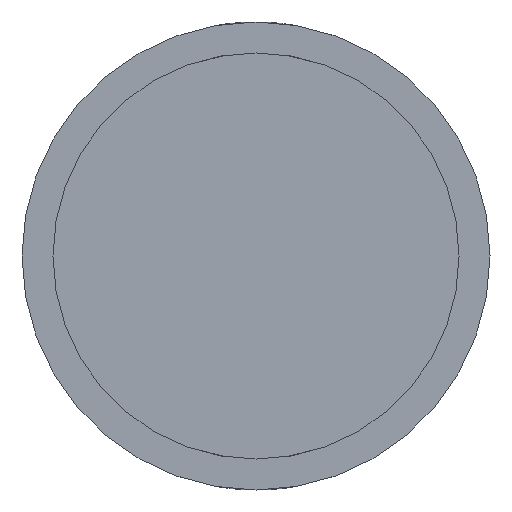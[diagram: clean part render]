
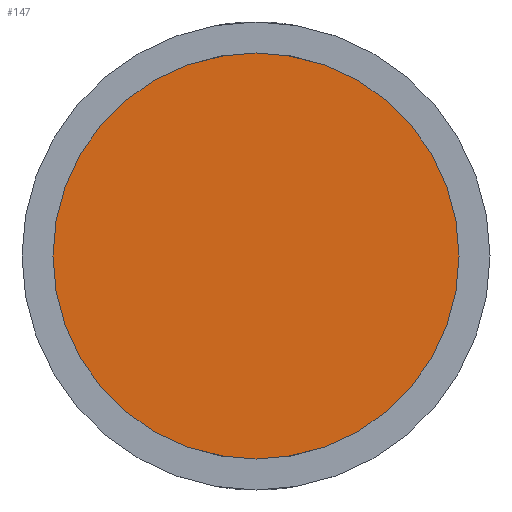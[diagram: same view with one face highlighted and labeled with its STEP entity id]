
A CAD part, front view. The second image highlights one B-rep face of the part: STEP entity #147.
In plain terms, the highlighted planar face has unit normal (0, -1, 0).
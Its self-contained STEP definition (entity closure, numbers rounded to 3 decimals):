
#12 = CARTESIAN_POINT ( 'NONE',  ( 0., 23., 0. ) ) ;
#107 = EDGE_LOOP ( 'NONE', ( #241, #619 ) ) ;
#120 = CARTESIAN_POINT ( 'NONE',  ( 0., 23., -13.1 ) ) ;
#147 = ADVANCED_FACE ( 'NONE', ( #311 ), #507, .F. ) ;
#189 = CARTESIAN_POINT ( 'NONE',  ( 0., 23., 0. ) ) ;
#223 = AXIS2_PLACEMENT_3D ( 'NONE', #189, #378, #229 ) ;
#229 = DIRECTION ( 'NONE',  ( 0., 0., 1. ) ) ;
#237 = CIRCLE ( 'NONE', #469, 13.1 ) ;
#241 = ORIENTED_EDGE ( 'NONE', *, *, #371, .F. ) ;
#311 = FACE_OUTER_BOUND ( 'NONE', #107, .T. ) ;
#338 = VERTEX_POINT ( 'NONE', #382 ) ;
#353 = AXIS2_PLACEMENT_3D ( 'NONE', #12, #609, #372 ) ;
#362 = VERTEX_POINT ( 'NONE', #120 ) ;
#371 = EDGE_CURVE ( 'NONE', #362, #338, #503, .T. ) ;
#372 = DIRECTION ( 'NONE',  ( 0., 0., 1. ) ) ;
#378 = DIRECTION ( 'NONE',  ( 0., 1., 0. ) ) ;
#382 = CARTESIAN_POINT ( 'NONE',  ( 0., 23., 13.1 ) ) ;
#437 = DIRECTION ( 'NONE',  ( 0., 0., 1. ) ) ;
#445 = CARTESIAN_POINT ( 'NONE',  ( 0., 23., 0. ) ) ;
#463 = EDGE_CURVE ( 'NONE', #338, #362, #237, .T. ) ;
#469 = AXIS2_PLACEMENT_3D ( 'NONE', #445, #602, #437 ) ;
#503 = CIRCLE ( 'NONE', #223, 13.1 ) ;
#507 = PLANE ( 'NONE',  #353 ) ;
#602 = DIRECTION ( 'NONE',  ( 0., 1., 0. ) ) ;
#609 = DIRECTION ( 'NONE',  ( 0., 1., 0. ) ) ;
#619 = ORIENTED_EDGE ( 'NONE', *, *, #463, .F. ) ;
